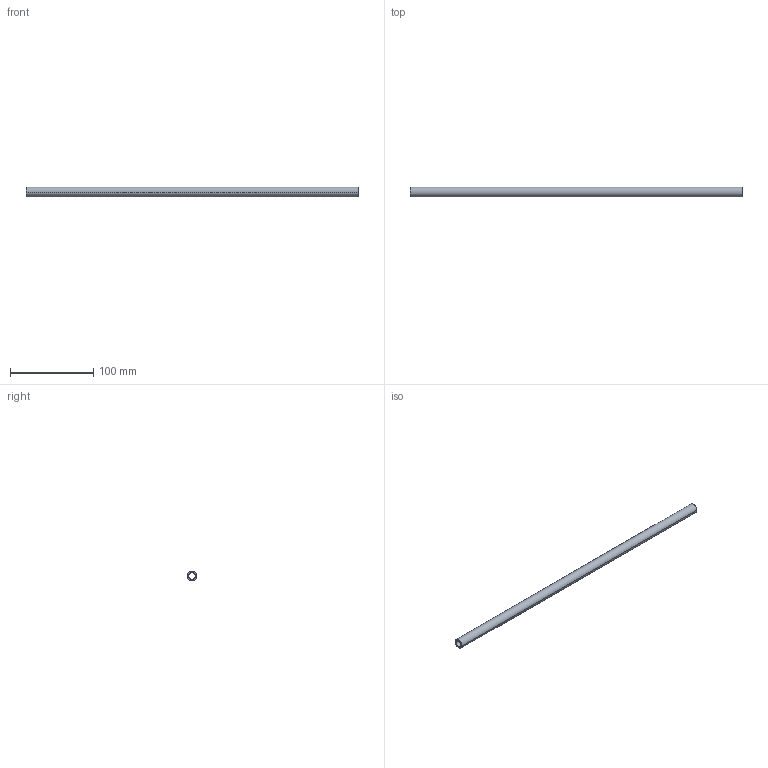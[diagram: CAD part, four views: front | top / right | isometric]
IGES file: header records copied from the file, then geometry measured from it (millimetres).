
Start section: START RECORD GO HERE.
Global section: file name: te128400.igs; native system: DASSAULT SYSTEMES CATIA V5 R20 - www.3ds.com; preprocessor: CATIA Version 5 Release 20 ; author: Utente; organization: NB04-ASUS; date: 20201107.142446; units: millimetre
Bounding box: 400 x 12 x 12 mm (x, y, z)
Surface area: 25481.5 mm2 (no closed solid volume)
Topology: 0 solids, 0 shells, 9 faces, 36 edges, 36 vertices
Faces by surface type: revolution 6, plane 3
